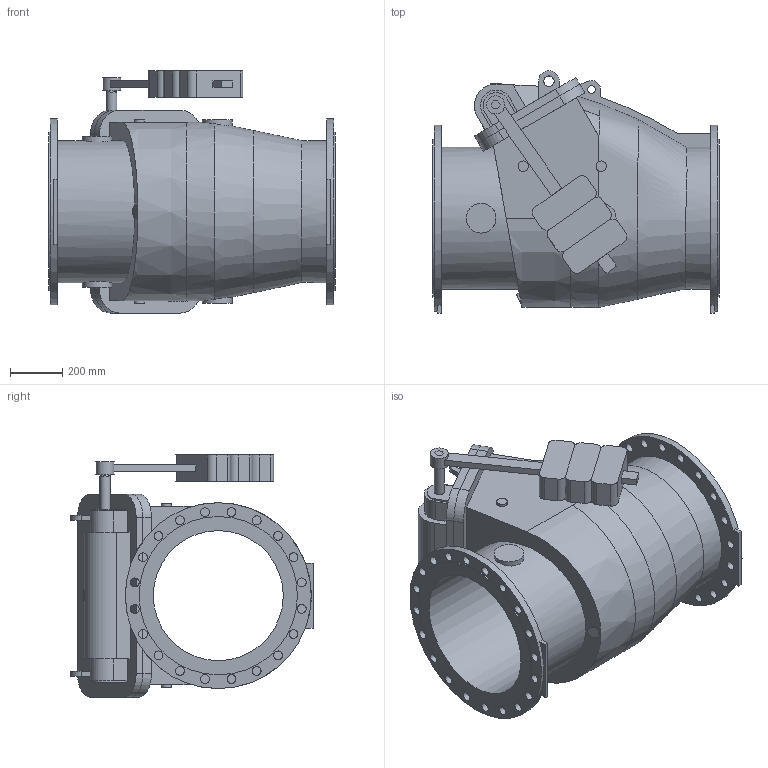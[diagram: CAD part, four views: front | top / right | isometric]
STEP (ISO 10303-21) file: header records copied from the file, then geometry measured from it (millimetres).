
FILE_DESCRIPTION (( 'STEP AP203' ), '1' );
FILE_NAME ('O_41_36_DN500_X1XXXXX_AA0_step.step', '2017-01-23T07:26:00', ( 'Windows User' ), ( 'AVK' ), 'SwSTEP 2.0', 'SolidWorks 2012', '' );
FILE_SCHEMA (( 'CONFIG_CONTROL_DESIGN' ));
Length unit declared in the file: millimetre
Products named in the file (1): O_41_36_DN500_X1XXXXX_AA0_step
Bounding box: 1100 x 932.17 x 931 mm (x, y, z)
Volume: 219275114.8 mm3; surface area: 6090183.9 mm2
Topology: 1 solids, 1 shells, 245 faces, 680 edges, 458 vertices
Faces by surface type: plane 142, cylinder 93, bspline 10
Full cylindrical faces by diameter (mm): 30 x1, 34 x40, 40 x7, 45 x1, 70 x1, 114 x4, 500 x1, 546 x1, 609 x2, 715 x2
Entity records: 29823 total; most frequent: CARTESIAN_POINT 23731, ORIENTED_EDGE 1172, DIRECTION 1172, EDGE_CURVE 586, VERTEX_POINT 425, EDGE_LOOP 417, AXIS2_PLACEMENT_3D 415, LINE 342
